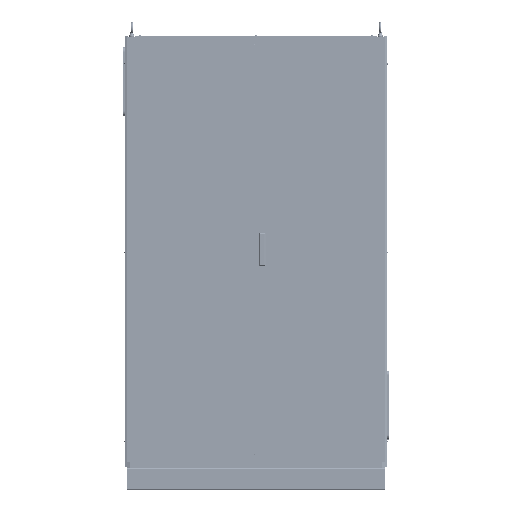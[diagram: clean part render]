
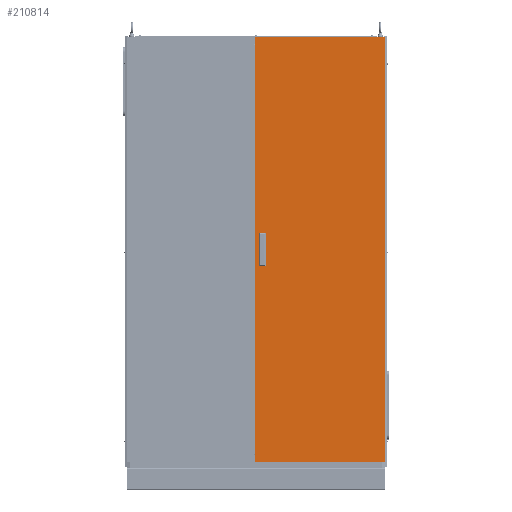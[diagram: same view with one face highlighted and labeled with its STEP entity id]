
A CAD part, top view. The second image highlights one B-rep face of the part: STEP entity #210814.
In plain terms, the highlighted planar face has unit normal (0, 0, 1).
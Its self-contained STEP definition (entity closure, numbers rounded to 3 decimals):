
#8443 = ORIENTED_EDGE ( 'NONE', *, *, #214250, .T. ) ;
#21046 = CARTESIAN_POINT ( 'NONE',  ( -3., 28., 300. ) ) ;
#32204 = ORIENTED_EDGE ( 'NONE', *, *, #245342, .T. ) ;
#44574 = LINE ( 'NONE', #353225, #248967 ) ;
#51531 = EDGE_CURVE ( 'NONE', #467198, #458989, #219253, .T. ) ;
#84303 = VECTOR ( 'NONE', #304385, 1000. ) ;
#103182 = DIRECTION ( 'NONE',  ( 1., 0., 0. ) ) ;
#110656 = DIRECTION ( 'NONE',  ( 1., 0., 0. ) ) ;
#116492 = CARTESIAN_POINT ( 'NONE',  ( -3., 1995., 300. ) ) ;
#130525 = CARTESIAN_POINT ( 'NONE',  ( 13.8, 1090., 300. ) ) ;
#134099 = EDGE_LOOP ( 'NONE', ( #359597, #219131, #159329, #424721 ) ) ;
#146701 = CARTESIAN_POINT ( 'NONE',  ( 13.8, 1011.5, 300. ) ) ;
#149738 = DIRECTION ( 'NONE',  ( 1., 0., 0. ) ) ;
#157567 = DIRECTION ( 'NONE',  ( 0., -1., 0. ) ) ;
#159329 = ORIENTED_EDGE ( 'NONE', *, *, #216881, .T. ) ;
#159379 = EDGE_CURVE ( 'NONE', #389287, #248937, #331480, .T. ) ;
#170418 = EDGE_CURVE ( 'NONE', #389287, #441962, #251073, .T. ) ;
#170694 = FACE_BOUND ( 'NONE', #134099, .T. ) ;
#205140 = CARTESIAN_POINT ( 'NONE',  ( -3., 28., 300. ) ) ;
#210814 = ADVANCED_FACE ( 'NONE', ( #304971, #170694 ), #458194, .T. ) ;
#213794 = DIRECTION ( 'NONE',  ( 0., 0., 1. ) ) ;
#214250 = EDGE_CURVE ( 'NONE', #458989, #367269, #397249, .T. ) ;
#216881 = EDGE_CURVE ( 'NONE', #441962, #454195, #466154, .T. ) ;
#219131 = ORIENTED_EDGE ( 'NONE', *, *, #170418, .T. ) ;
#219253 = LINE ( 'NONE', #21046, #436413 ) ;
#222925 = VECTOR ( 'NONE', #351933, 1000. ) ;
#233602 = DIRECTION ( 'NONE',  ( 0., -1., 0. ) ) ;
#244325 = AXIS2_PLACEMENT_3D ( 'NONE', #253047, #213794, #499218 ) ;
#245342 = EDGE_CURVE ( 'NONE', #339035, #467198, #365740, .T. ) ;
#248937 = VERTEX_POINT ( 'NONE', #313120 ) ;
#248967 = VECTOR ( 'NONE', #149738, 1000. ) ;
#249110 = VECTOR ( 'NONE', #233602, 1000. ) ;
#251073 = LINE ( 'NONE', #394472, #455332 ) ;
#253047 = CARTESIAN_POINT ( 'NONE',  ( 297., 1011.5, 300. ) ) ;
#264425 = ORIENTED_EDGE ( 'NONE', *, *, #484819, .T. ) ;
#286613 = CARTESIAN_POINT ( 'NONE',  ( 44.2, 1090., 300. ) ) ;
#304385 = DIRECTION ( 'NONE',  ( 0., 1., 0. ) ) ;
#304971 = FACE_OUTER_BOUND ( 'NONE', #498653, .T. ) ;
#313120 = CARTESIAN_POINT ( 'NONE',  ( 13.8, 933., 300. ) ) ;
#320018 = CARTESIAN_POINT ( 'NONE',  ( -3., 1995., 300. ) ) ;
#321861 = LINE ( 'NONE', #527577, #526024 ) ;
#330569 = CARTESIAN_POINT ( 'NONE',  ( 597., 28., 300. ) ) ;
#331480 = LINE ( 'NONE', #146701, #222925 ) ;
#339035 = VERTEX_POINT ( 'NONE', #116492 ) ;
#348395 = CARTESIAN_POINT ( 'NONE',  ( 597., 1995., 300. ) ) ;
#351933 = DIRECTION ( 'NONE',  ( 0., -1., 0. ) ) ;
#352890 = VECTOR ( 'NONE', #157567, 1000. ) ;
#353225 = CARTESIAN_POINT ( 'NONE',  ( 13.8, 933., 300. ) ) ;
#359597 = ORIENTED_EDGE ( 'NONE', *, *, #159379, .F. ) ;
#365171 = ORIENTED_EDGE ( 'NONE', *, *, #51531, .T. ) ;
#365740 = LINE ( 'NONE', #320018, #352890 ) ;
#367269 = VERTEX_POINT ( 'NONE', #348395 ) ;
#388217 = EDGE_CURVE ( 'NONE', #248937, #454195, #44574, .T. ) ;
#389287 = VERTEX_POINT ( 'NONE', #130525 ) ;
#394472 = CARTESIAN_POINT ( 'NONE',  ( 13.8, 1090., 300. ) ) ;
#397249 = LINE ( 'NONE', #505965, #84303 ) ;
#424721 = ORIENTED_EDGE ( 'NONE', *, *, #388217, .F. ) ;
#436413 = VECTOR ( 'NONE', #103182, 1000. ) ;
#437107 = CARTESIAN_POINT ( 'NONE',  ( 44.2, 1011.5, 300. ) ) ;
#438296 = CARTESIAN_POINT ( 'NONE',  ( 44.2, 933., 300. ) ) ;
#441962 = VERTEX_POINT ( 'NONE', #286613 ) ;
#454195 = VERTEX_POINT ( 'NONE', #438296 ) ;
#455332 = VECTOR ( 'NONE', #110656, 1000. ) ;
#458194 = PLANE ( 'NONE',  #244325 ) ;
#458989 = VERTEX_POINT ( 'NONE', #330569 ) ;
#466154 = LINE ( 'NONE', #437107, #249110 ) ;
#467198 = VERTEX_POINT ( 'NONE', #205140 ) ;
#484819 = EDGE_CURVE ( 'NONE', #367269, #339035, #321861, .T. ) ;
#486539 = DIRECTION ( 'NONE',  ( -1., 0., 0. ) ) ;
#498653 = EDGE_LOOP ( 'NONE', ( #8443, #264425, #32204, #365171 ) ) ;
#499218 = DIRECTION ( 'NONE',  ( 1., 0., 0. ) ) ;
#505965 = CARTESIAN_POINT ( 'NONE',  ( 597., 1995., 300. ) ) ;
#526024 = VECTOR ( 'NONE', #486539, 1000. ) ;
#527577 = CARTESIAN_POINT ( 'NONE',  ( -3., 1995., 300. ) ) ;
